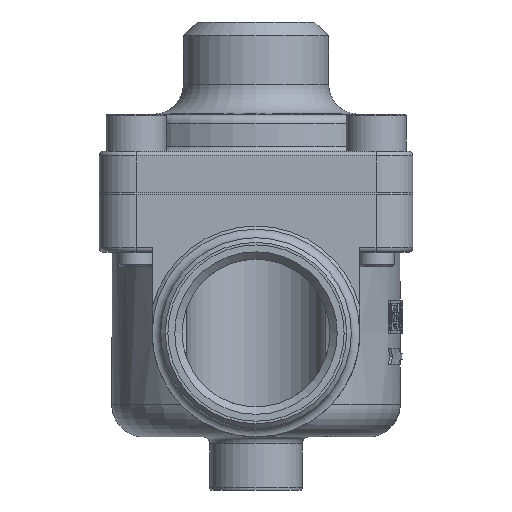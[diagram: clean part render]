
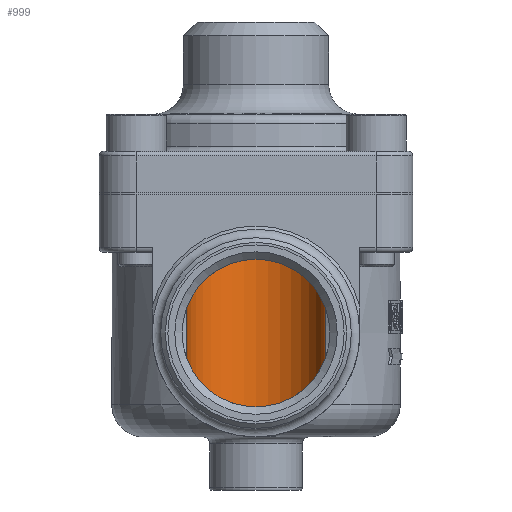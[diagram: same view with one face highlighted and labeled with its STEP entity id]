
A CAD part, left-side view. The second image highlights one B-rep face of the part: STEP entity #999.
In plain terms, the highlighted cylindrical face has radius 15 mm (diameter 30 mm), a full revolution.
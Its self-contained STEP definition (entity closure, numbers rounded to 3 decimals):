
#565=FACE_BOUND('',#2209,.T.);
#566=FACE_BOUND('',#2210,.T.);
#567=FACE_BOUND('',#2211,.T.);
#999=ADVANCED_FACE('',(#565,#566,#567),#1432,.F.);
#1432=CYLINDRICAL_SURFACE('',#9382,15.);
#2209=EDGE_LOOP('',(#5118));
#2210=EDGE_LOOP('',(#5119,#5120,#5121,#5122));
#2211=EDGE_LOOP('',(#5123));
#3796=CIRCLE('',#9380,15.);
#3797=CIRCLE('',#9381,15.);
#5118=ORIENTED_EDGE('',*,*,#7910,.T.);
#5119=ORIENTED_EDGE('',*,*,#7911,.T.);
#5120=ORIENTED_EDGE('',*,*,#7912,.T.);
#5121=ORIENTED_EDGE('',*,*,#7913,.T.);
#5122=ORIENTED_EDGE('',*,*,#7914,.T.);
#5123=ORIENTED_EDGE('',*,*,#7915,.T.);
#6847=VERTEX_POINT('',#15215);
#6848=VERTEX_POINT('',#15222);
#6849=VERTEX_POINT('',#15223);
#6850=VERTEX_POINT('',#15246);
#6851=VERTEX_POINT('',#15253);
#6852=VERTEX_POINT('',#15277);
#7910=EDGE_CURVE('',#6847,#6847,#3796,.T.);
#7911=EDGE_CURVE('',#6848,#6849,#8739,.T.);
#7912=EDGE_CURVE('',#6849,#6850,#8740,.T.);
#7913=EDGE_CURVE('',#6850,#6851,#8741,.T.);
#7914=EDGE_CURVE('',#6851,#6848,#8742,.T.);
#7915=EDGE_CURVE('',#6852,#6852,#3797,.T.);
#8739=B_SPLINE_CURVE_WITH_KNOTS('',3,(#15216,#15217,#15218,#15219,#15220,
#15221),.UNSPECIFIED.,.F.,.F.,(4,2,4),(0.,0.5,1.),.UNSPECIFIED.);
#8740=B_SPLINE_CURVE_WITH_KNOTS('',3,(#15224,#15225,#15226,#15227,#15228,
#15229,#15230,#15231,#15232,#15233,#15234,#15235,#15236,#15237,#15238,#15239,
#15240,#15241,#15242,#15243,#15244,#15245),.UNSPECIFIED.,.F.,.F.,(4,2,2,
2,2,2,2,2,2,2,4),(0.,0.063,0.125,0.25,0.375,0.5,
0.625,0.75,0.875,0.938,1.),.UNSPECIFIED.);
#8741=B_SPLINE_CURVE_WITH_KNOTS('',3,(#15247,#15248,#15249,#15250,#15251,
#15252),.UNSPECIFIED.,.F.,.F.,(4,2,4),(0.,0.5,1.),.UNSPECIFIED.);
#8742=B_SPLINE_CURVE_WITH_KNOTS('',3,(#15254,#15255,#15256,#15257,#15258,
#15259,#15260,#15261,#15262,#15263,#15264,#15265,#15266,#15267,#15268,#15269,
#15270,#15271,#15272,#15273,#15274,#15275),.UNSPECIFIED.,.F.,.F.,(4,2,2,
2,2,2,2,2,2,2,4),(0.,0.062,0.125,0.25,0.375,0.5,
0.625,0.75,0.875,0.938,1.),.UNSPECIFIED.);
#9380=AXIS2_PLACEMENT_3D('',#15214,#10856,#10857);
#9381=AXIS2_PLACEMENT_3D('',#15276,#10858,#10859);
#9382=AXIS2_PLACEMENT_3D('',#15278,#10860,#10861);
#10856=DIRECTION('',(0.,0.,1.));
#10857=DIRECTION('',(-1.,0.,0.));
#10858=DIRECTION('',(0.,0.,-1.));
#10859=DIRECTION('',(-1.,0.,0.));
#10860=DIRECTION('',(0.,0.,-1.));
#10861=DIRECTION('',(-1.,0.,0.));
#15214=CARTESIAN_POINT('',(0.,0.,
181.632));
#15215=CARTESIAN_POINT('',(-15.,0.,181.632));
#15216=CARTESIAN_POINT('',(0.,-15.,155.332));
#15217=CARTESIAN_POINT('',(0.37,-15.,157.175));
#15218=CARTESIAN_POINT('',(0.583,-14.989,159.024));
#15219=CARTESIAN_POINT('',(0.585,-14.989,162.743));
#15220=CARTESIAN_POINT('',(0.371,-15.,164.622));
#15221=CARTESIAN_POINT('',(0.,-15.,166.468));
#15222=CARTESIAN_POINT('',(0.,-15.,155.332));
#15223=CARTESIAN_POINT('',(0.,-15.,166.468));
#15224=CARTESIAN_POINT('',(0.,-15.,166.468));
#15225=CARTESIAN_POINT('',(-1.111,-15.,166.468));
#15226=CARTESIAN_POINT('',(-2.165,-14.876,166.815));
#15227=CARTESIAN_POINT('',(-4.09,-14.465,167.758));
#15228=CARTESIAN_POINT('',(-4.975,-14.18,168.344));
#15229=CARTESIAN_POINT('',(-7.491,-13.122,170.161));
#15230=CARTESIAN_POINT('',(-8.962,-12.169,171.432));
#15231=CARTESIAN_POINT('',(-11.646,-9.633,173.792));
#15232=CARTESIAN_POINT('',(-12.805,-8.073,174.86));
#15233=CARTESIAN_POINT('',(-14.495,-4.364,176.424));
#15234=CARTESIAN_POINT('',(-14.995,-2.212,176.895));
#15235=CARTESIAN_POINT('',(-15.005,2.144,176.905));
#15236=CARTESIAN_POINT('',(-14.506,4.327,176.435));
#15237=CARTESIAN_POINT('',(-12.826,8.041,174.879));
#15238=CARTESIAN_POINT('',(-11.663,9.61,173.808));
#15239=CARTESIAN_POINT('',(-9.002,12.138,171.466));
#15240=CARTESIAN_POINT('',(-7.503,13.115,170.171));
#15241=CARTESIAN_POINT('',(-4.99,14.175,168.354));
#15242=CARTESIAN_POINT('',(-4.102,14.462,167.764));
#15243=CARTESIAN_POINT('',(-2.17,14.875,166.816));
#15244=CARTESIAN_POINT('',(-1.107,15.,166.468));
#15245=CARTESIAN_POINT('',(0.,15.,166.468));
#15246=CARTESIAN_POINT('',(0.,15.,166.468));
#15247=CARTESIAN_POINT('',(0.,15.,166.468));
#15248=CARTESIAN_POINT('',(0.37,15.,164.625));
#15249=CARTESIAN_POINT('',(0.583,14.989,162.776));
#15250=CARTESIAN_POINT('',(0.585,14.989,159.057));
#15251=CARTESIAN_POINT('',(0.371,15.,157.178));
#15252=CARTESIAN_POINT('',(0.,15.,155.332));
#15253=CARTESIAN_POINT('',(0.,15.,155.332));
#15254=CARTESIAN_POINT('',(0.,15.,155.332));
#15255=CARTESIAN_POINT('',(-1.111,15.,155.332));
#15256=CARTESIAN_POINT('',(-2.165,14.876,154.985));
#15257=CARTESIAN_POINT('',(-4.09,14.465,154.042));
#15258=CARTESIAN_POINT('',(-4.975,14.18,153.456));
#15259=CARTESIAN_POINT('',(-7.491,13.122,151.639));
#15260=CARTESIAN_POINT('',(-8.962,12.169,150.368));
#15261=CARTESIAN_POINT('',(-11.646,9.633,148.008));
#15262=CARTESIAN_POINT('',(-12.805,8.073,146.94));
#15263=CARTESIAN_POINT('',(-14.495,4.364,145.376));
#15264=CARTESIAN_POINT('',(-14.995,2.212,144.905));
#15265=CARTESIAN_POINT('',(-15.005,-2.144,144.895));
#15266=CARTESIAN_POINT('',(-14.506,-4.327,145.365));
#15267=CARTESIAN_POINT('',(-12.826,-8.041,146.921));
#15268=CARTESIAN_POINT('',(-11.663,-9.61,147.992));
#15269=CARTESIAN_POINT('',(-9.002,-12.138,150.334));
#15270=CARTESIAN_POINT('',(-7.503,-13.115,151.629));
#15271=CARTESIAN_POINT('',(-4.99,-14.175,153.446));
#15272=CARTESIAN_POINT('',(-4.102,-14.462,154.036));
#15273=CARTESIAN_POINT('',(-2.17,-14.875,154.984));
#15274=CARTESIAN_POINT('',(-1.107,-15.,155.332));
#15275=CARTESIAN_POINT('',(0.,-15.,155.332));
#15276=CARTESIAN_POINT('',(0.,0.,
144.4));
#15277=CARTESIAN_POINT('',(-15.,0.,144.4));
#15278=CARTESIAN_POINT('',(0.,0.,
190.9));
